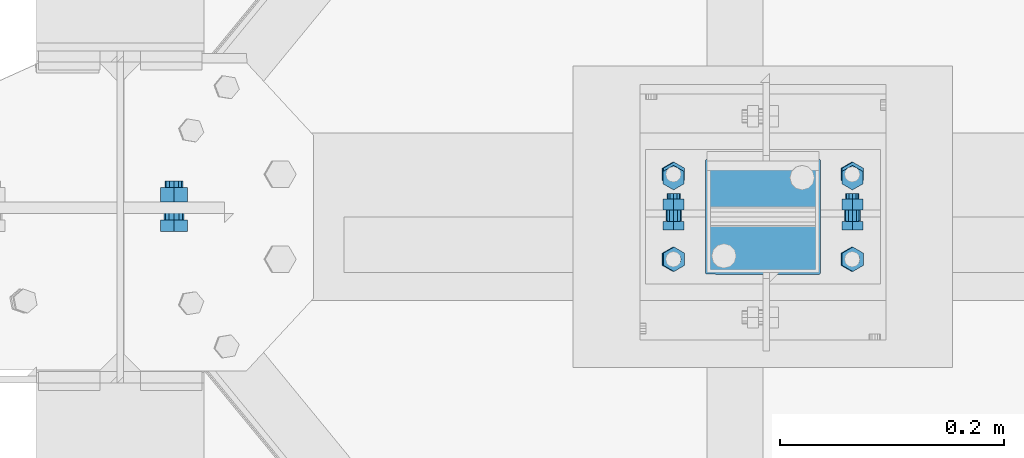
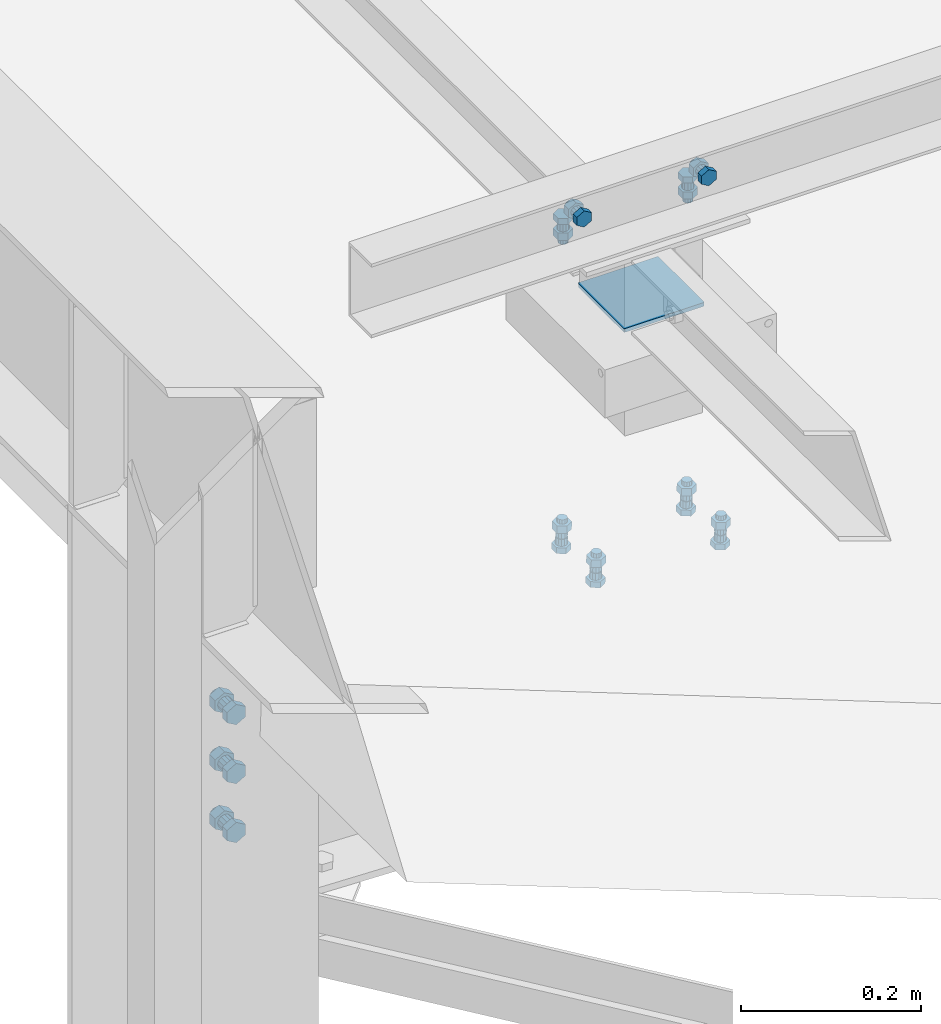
# One storey, part 305 of 3134: 5 mechanical fasteners, 4 elements without a shape of their own.
"""IFC2X3 building model written with IfcOpenShell, lengths in millimetres."""

from ifc_helpers import new_model, si_unit, frame, origin_with_axes, place, context, subcontext, project, spatial, faceted_brep, source, transform, mapped, material, type_object, element, aggregate, save


model = new_model("IFC2X3")

# Units and contexts
model_context = context("Model", 3, precision=1e-05, world=origin_with_axes())
body_context = subcontext(model_context, "Body", "Model", "MODEL_VIEW")
ifc_project = project(units=[si_unit("LENGTHUNIT", "METRE", prefix="MILLI"), si_unit("AREAUNIT", "SQUARE_METRE"), si_unit("VOLUMEUNIT", "CUBIC_METRE"), si_unit("MASSUNIT", "GRAM", prefix="KILO"), si_unit("TIMEUNIT", "SECOND"), si_unit("PLANEANGLEUNIT", "RADIAN"), si_unit("SOLIDANGLEUNIT", "STERADIAN"), si_unit("THERMODYNAMICTEMPERATUREUNIT", "DEGREE_CELSIUS"), si_unit("LUMINOUSINTENSITYUNIT", "LUMEN")], contexts=[model_context])

# Site, building, storey
site_placement = place(None, origin_with_axes())
site = spatial("IfcSite", under=ifc_project, at=site_placement, CompositionType="ELEMENT")
building_placement = place(site_placement, origin_with_axes())
building = spatial("IfcBuilding", under=site, at=building_placement, Name="Undefined", CompositionType="ELEMENT")
storey_placement = place(building_placement, origin_with_axes())
storey = spatial("IfcBuildingStorey", under=building, at=storey_placement, Name="Undefined", CompositionType="ELEMENT", Elevation=0.0)

# Assembly, mechanical fastener
assembly_1_placement = place(storey_placement, origin_with_axes())
assembly_1 = element("IfcElementAssembly", 1, at=assembly_1_placement, inside=storey, AssemblyPlace="NOTDEFINED", PredefinedType="RIGID_FRAME")
ifc_material_1 = material(Name="8.8")
mechanical_fastener_type = type_object("IfcMechanicalFastenerType", Name="Bolt assembly")
shared_shape_1 = source(origin_with_axes(), body_context, "Body", "Brep", [
    faceted_brep([(10.9696551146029, -14.0, 0.0), (5.48482755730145, -14.0, 9.5), (-5.48482755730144, -14.0, 9.5), (-10.9696551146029, -14.0, 1.34339530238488e-15), (-5.48482755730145, -14.0, -9.5), (5.48482755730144, -14.0, -9.50000000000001), (5.48482755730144, -6.0, -9.50000000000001), (-5.48482755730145, -6.0, -9.5), (-10.9696551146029, -6.0, 1.34339530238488e-15), (-5.48482755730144, -6.0, 9.5), (5.48482755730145, -6.0, 9.5), (10.9696551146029, -6.0, 0.0), (6.0, -6.0, 0.0), (5.19615242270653, -6.0, 3.00000000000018), (2.99999999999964, -6.0, 5.19615242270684), (-6.21801588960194e-13, -6.0, 6.0), (-3.00000000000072, -6.0, 5.19615242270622), (-5.19615242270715, -6.0, 2.9999999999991), (-6.0, -6.0, -1.24360317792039e-12), (-5.19615242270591, -6.0, -3.00000000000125), (-2.99999999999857, -6.0, -5.19615242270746), (1.85874342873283e-12, -6.0, -6.0), (3.00000000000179, -6.0, -5.1961524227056), (5.19615242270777, -6.0, -2.99999999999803), (5.19615242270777, 24.0, -2.99999999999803), (3.00000000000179, 24.0, -5.1961524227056), (1.85874342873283e-12, 24.0, -6.0), (-2.99999999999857, 24.0, -5.19615242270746), (-5.19615242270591, 24.0, -3.00000000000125), (-6.0, 24.0, -1.24360317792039e-12), (-5.19615242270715, 24.0, 2.9999999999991), (-3.00000000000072, 24.0, 5.19615242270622), (-6.21801588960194e-13, 24.0, 6.0), (2.99999999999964, 24.0, 5.19615242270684), (5.19615242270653, 24.0, 3.00000000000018), (6.0, 24.0, 0.0), (10.9696551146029, 6.00000000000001, 0.0), (5.48482755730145, 6.00000000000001, 9.5), (-5.48482755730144, 6.00000000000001, 9.5), (-10.9696551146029, 6.00000000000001, 1.34339530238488e-15), (-5.48482755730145, 6.00000000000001, -9.5), (5.48482755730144, 6.00000000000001, -9.50000000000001), (5.48482755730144, 16.0, -9.50000000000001), (-5.48482755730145, 16.0, -9.5), (-10.9696551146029, 16.0, 1.34339530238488e-15), (-5.48482755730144, 16.0, 9.5), (5.48482755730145, 16.0, 9.5), (10.9696551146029, 16.0, 0.0)], [[[0, 1, 2, 3, 4, 5]], [[6, 7, 8, 9, 10, 11]], [[0, 11, 10, 1]], [[1, 10, 9, 2]], [[2, 9, 8, 3]], [[3, 8, 7, 4]], [[4, 7, 6, 5]], [[5, 6, 11, 0]], [[12, 13, 14, 15, 16, 17, 18, 19, 20, 21, 22, 23]], [[24, 25, 26, 27, 28, 29, 30, 31, 32, 33, 34, 35]], [[12, 35, 34, 13]], [[13, 34, 33, 14]], [[14, 33, 32, 15]], [[15, 32, 31, 16]], [[16, 31, 30, 17]], [[17, 30, 29, 18]], [[18, 29, 28, 19]], [[19, 28, 27, 20]], [[20, 27, 26, 21]], [[21, 26, 25, 22]], [[22, 25, 24, 23]], [[23, 24, 35, 12]], [[36, 37, 38, 39, 40, 41]], [[42, 43, 44, 45, 46, 47]], [[36, 47, 46, 37]], [[37, 46, 45, 38]], [[38, 45, 44, 39]], [[39, 44, 43, 40]], [[40, 43, 42, 41]], [[41, 42, 47, 36]]]),
    faceted_brep([(7.0, -0.1, 0.0), (6.06217782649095, -0.1, 3.50000000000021), (3.49999999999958, -0.1, 6.06217782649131), (-7.25435187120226e-13, -0.1, 7.0), (-3.50000000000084, -0.1, 6.06217782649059), (-6.06217782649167, -0.1, 3.49999999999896), (-7.0, -0.1, -1.45087037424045e-12), (-6.06217782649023, -0.1, -3.50000000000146), (-3.49999999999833, -0.1, -6.06217782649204), (2.1685340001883e-12, -0.1, -7.0), (3.50000000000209, -0.1, -6.06217782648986), (6.0621778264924, -0.1, -3.4999999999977), (6.0621778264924, 6.00000000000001, -3.4999999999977), (3.50000000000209, 6.00000000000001, -6.06217782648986), (2.1685340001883e-12, 6.00000000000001, -7.0), (-3.49999999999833, 6.00000000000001, -6.06217782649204), (-6.06217782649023, 6.00000000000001, -3.50000000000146), (-7.0, 6.00000000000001, -1.45087037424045e-12), (-6.06217782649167, 6.00000000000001, 3.49999999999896), (-3.50000000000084, 6.00000000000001, 6.06217782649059), (-7.25435187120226e-13, 6.00000000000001, 7.0), (3.49999999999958, 6.00000000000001, 6.06217782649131), (6.06217782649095, 6.00000000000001, 3.50000000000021), (7.0, 6.00000000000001, 0.0), (7.0, -5.9, 0.0), (6.06217782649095, -5.9, 3.50000000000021), (3.49999999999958, -5.9, 6.06217782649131), (-7.25435187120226e-13, -5.9, 7.0), (-3.50000000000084, -5.9, 6.06217782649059), (-6.06217782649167, -5.9, 3.49999999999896), (-7.0, -5.9, -1.45087037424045e-12), (-6.06217782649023, -5.9, -3.50000000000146), (-3.49999999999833, -5.9, -6.06217782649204), (2.1685340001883e-12, -5.9, -7.0), (3.50000000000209, -5.9, -6.06217782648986), (6.0621778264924, -5.9, -3.4999999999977), (6.0621778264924, 0.0999999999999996, -3.4999999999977), (3.50000000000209, 0.0999999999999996, -6.06217782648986), (2.1685340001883e-12, 0.0999999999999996, -7.0), (-3.49999999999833, 0.0999999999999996, -6.06217782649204), (-6.06217782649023, 0.0999999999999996, -3.50000000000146), (-7.0, 0.0999999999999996, -1.45087037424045e-12), (-6.06217782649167, 0.0999999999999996, 3.49999999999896), (-3.50000000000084, 0.0999999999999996, 6.06217782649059), (-7.25435187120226e-13, 0.0999999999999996, 7.0), (3.49999999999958, 0.0999999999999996, 6.06217782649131), (6.06217782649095, 0.0999999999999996, 3.50000000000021), (7.0, 0.0999999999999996, 0.0)], [[[0, 1, 2, 3, 4, 5, 6, 7, 8, 9, 10, 11]], [[12, 13, 14, 15, 16, 17, 18, 19, 20, 21, 22, 23]], [[0, 23, 22, 1]], [[1, 22, 21, 2]], [[2, 21, 20, 3]], [[3, 20, 19, 4]], [[4, 19, 18, 5]], [[5, 18, 17, 6]], [[6, 17, 16, 7]], [[7, 16, 15, 8]], [[8, 15, 14, 9]], [[9, 14, 13, 10]], [[10, 13, 12, 11]], [[11, 12, 23, 0]], [[24, 25, 26, 27, 28, 29, 30, 31, 32, 33, 34, 35]], [[36, 37, 38, 39, 40, 41, 42, 43, 44, 45, 46, 47]], [[24, 47, 46, 25]], [[25, 46, 45, 26]], [[26, 45, 44, 27]], [[27, 44, 43, 28]], [[28, 43, 42, 29]], [[29, 42, 41, 30]], [[30, 41, 40, 31]], [[31, 40, 39, 32]], [[32, 39, 38, 33]], [[33, 38, 37, 34]], [[34, 37, 36, 35]], [[35, 36, 47, 24]]]),
])
mechanical_fastener_1_placement = place(assembly_1_placement, frame((68125.0, 5135.0, 5850.0), z_axis=(1.0, 0.0, 0.0), x_axis=(0.0, -1.0, 0.0)))
mechanical_fastener_1 = element("IfcMechanicalFastener", 2, at=mechanical_fastener_1_placement, type_object=mechanical_fastener_type, material=ifc_material_1, Name="Bolt assembly", NominalDiameter=12.0, NominalLength=30.0, context=body_context, shape_type="MappedRepresentation", body=[
    mapped(shared_shape_1, transform((0.0, -5.32963895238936e-10, -79.9999999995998))),
    mapped(shared_shape_1, transform((0.0, 5.3114490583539e-10, 79.9999999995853))),
])

assembly_2_placement = place(storey_placement, origin_with_axes())
assembly_2 = element("IfcElementAssembly", 3, at=assembly_2_placement, inside=storey, AssemblyPlace="NOTDEFINED", PredefinedType="RIGID_FRAME")
ifc_material_2 = material(Name="6.8")
shared_shape_2 = source(origin_with_axes(), body_context, "Body", "Brep", [
    faceted_brep([(51.5, 1.36424205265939e-12, 50.0), (51.3858192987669, 1.36424205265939e-12, 50.5740251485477), (51.0606601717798, 1.36424205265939e-12, 51.0606601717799), (50.5740251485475, 1.36424205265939e-12, 51.385819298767), (-50.0000000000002, 1.36424205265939e-12, 51.5), (-50.7500000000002, 1.36424205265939e-12, 51.2990381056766), (-51.2990381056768, 1.36424205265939e-12, 50.7499999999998), (-51.5, 1.36424205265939e-12, 49.9999999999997), (-51.5, 1.36424205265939e-12, -50.0000000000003), (-51.2990381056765, 1.36424205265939e-12, -50.7500000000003), (-50.7499999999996, 1.36424205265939e-12, -51.2990381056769), (-49.9999999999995, 1.36424205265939e-12, -51.5), (50.0000000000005, 1.36424205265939e-12, -51.5), (50.7500000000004, 1.36424205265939e-12, -51.2990381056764), (51.2990381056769, 1.36424205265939e-12, -50.7499999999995), (51.5, 1.36424205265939e-12, -49.9999999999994), (51.5, 5.10000000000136, -49.9999999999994), (51.2990381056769, 5.10000000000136, -50.7499999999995), (50.7500000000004, 5.10000000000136, -51.2990381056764), (50.0000000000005, 5.10000000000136, -51.5), (-49.9999999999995, 5.10000000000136, -51.5), (-50.7499999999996, 5.10000000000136, -51.2990381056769), (-51.2990381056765, 5.10000000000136, -50.7500000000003), (-51.5, 5.10000000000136, -50.0000000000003), (-51.5, 5.10000000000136, 49.9999999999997), (-51.2990381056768, 5.10000000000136, 50.7499999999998), (-50.7500000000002, 5.10000000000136, 51.2990381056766), (-50.0000000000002, 5.10000000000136, 51.5), (50.5740251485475, 5.10000000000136, 51.385819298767), (51.0606601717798, 5.10000000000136, 51.0606601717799), (51.3858192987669, 5.10000000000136, 50.5740251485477), (51.5, 5.10000000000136, 50.0)], [[[0, 1, 2, 3, 4, 5, 6, 7, 8, 9, 10, 11, 12, 13, 14, 15]], [[16, 17, 18, 19, 20, 21, 22, 23, 24, 25, 26, 27, 28, 29, 30, 31]], [[0, 31, 30, 1]], [[1, 30, 29, 2]], [[2, 29, 28, 3]], [[3, 28, 27, 4]], [[4, 27, 26, 5]], [[5, 26, 25, 6]], [[6, 25, 24, 7]], [[7, 24, 23, 8]], [[8, 23, 22, 9]], [[9, 22, 21, 10]], [[10, 21, 20, 11]], [[11, 20, 19, 12]], [[12, 19, 18, 13]], [[13, 18, 17, 14]], [[14, 17, 16, 15]], [[15, 16, 31, 0]]]),
])
mechanical_fastener_2_placement = place(assembly_2_placement, frame((68125.0, 5100.0, 5750.0), z_axis=(0.0, -1.0, 0.0), x_axis=(-1.0, 0.0, 0.0)))
mechanical_fastener_2 = element("IfcMechanicalFastener", 4, at=mechanical_fastener_2_placement, type_object=mechanical_fastener_type, material=ifc_material_2, Name="Bolt assembly", NominalDiameter=10.0, NominalLength=5.0, context=body_context, shape_type="MappedRepresentation", body=[
    mapped(shared_shape_2, transform((0.0, 0.0, 0.0))),
])
aggregate(assembly_2, [mechanical_fastener_2])

# Mechanical fastener
shared_shape_3 = source(origin_with_axes(), body_context, "Body", "Brep", [
    faceted_brep([(10.9696551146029, -12.0, 0.0), (5.48482755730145, -12.0, 9.5), (-5.48482755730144, -12.0, 9.5), (-10.9696551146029, -12.0, 1.34339530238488e-15), (-5.48482755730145, -12.0, -9.5), (5.48482755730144, -12.0, -9.50000000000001), (5.48482755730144, -4.0, -9.50000000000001), (-5.48482755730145, -4.0, -9.5), (-10.9696551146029, -4.0, 1.34339530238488e-15), (-5.48482755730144, -4.0, 9.5), (5.48482755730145, -4.0, 9.5), (10.9696551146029, -4.0, 0.0), (6.0, -4.0, 0.0), (5.19615242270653, -4.0, 3.00000000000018), (2.99999999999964, -4.0, 5.19615242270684), (-6.21801588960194e-13, -4.0, 6.0), (-3.00000000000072, -4.0, 5.19615242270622), (-5.19615242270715, -4.0, 2.9999999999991), (-6.0, -4.0, -1.24360317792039e-12), (-5.19615242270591, -4.0, -3.00000000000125), (-2.99999999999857, -4.0, -5.19615242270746), (1.85874342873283e-12, -4.0, -6.0), (3.00000000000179, -4.0, -5.1961524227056), (5.19615242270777, -4.0, -2.99999999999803), (5.19615242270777, 21.0, -2.99999999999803), (3.00000000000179, 21.0, -5.1961524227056), (1.85874342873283e-12, 21.0, -6.0), (-2.99999999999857, 21.0, -5.19615242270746), (-5.19615242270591, 21.0, -3.00000000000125), (-6.0, 21.0, -1.24360317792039e-12), (-5.19615242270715, 21.0, 2.9999999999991), (-3.00000000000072, 21.0, 5.19615242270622), (-6.21801588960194e-13, 21.0, 6.0), (2.99999999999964, 21.0, 5.19615242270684), (5.19615242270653, 21.0, 3.00000000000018), (6.0, 21.0, 0.0), (10.9696551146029, 6.00000000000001, 0.0), (5.48482755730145, 6.00000000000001, 9.5), (-5.48482755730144, 6.00000000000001, 9.5), (-10.9696551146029, 6.00000000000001, 1.34339530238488e-15), (-5.48482755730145, 6.00000000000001, -9.5), (5.48482755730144, 6.00000000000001, -9.50000000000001), (5.48482755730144, 16.0, -9.50000000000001), (-5.48482755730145, 16.0, -9.5), (-10.9696551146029, 16.0, 1.34339530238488e-15), (-5.48482755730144, 16.0, 9.5), (5.48482755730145, 16.0, 9.5), (10.9696551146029, 16.0, 0.0)], [[[0, 1, 2, 3, 4, 5]], [[6, 7, 8, 9, 10, 11]], [[0, 11, 10, 1]], [[1, 10, 9, 2]], [[2, 9, 8, 3]], [[3, 8, 7, 4]], [[4, 7, 6, 5]], [[5, 6, 11, 0]], [[12, 13, 14, 15, 16, 17, 18, 19, 20, 21, 22, 23]], [[24, 25, 26, 27, 28, 29, 30, 31, 32, 33, 34, 35]], [[12, 35, 34, 13]], [[13, 34, 33, 14]], [[14, 33, 32, 15]], [[15, 32, 31, 16]], [[16, 31, 30, 17]], [[17, 30, 29, 18]], [[18, 29, 28, 19]], [[19, 28, 27, 20]], [[20, 27, 26, 21]], [[21, 26, 25, 22]], [[22, 25, 24, 23]], [[23, 24, 35, 12]], [[36, 37, 38, 39, 40, 41]], [[42, 43, 44, 45, 46, 47]], [[36, 47, 46, 37]], [[37, 46, 45, 38]], [[38, 45, 44, 39]], [[39, 44, 43, 40]], [[40, 43, 42, 41]], [[41, 42, 47, 36]]]),
    faceted_brep([(7.0, -3.9, 0.0), (6.06217782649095, -3.9, 3.50000000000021), (3.49999999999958, -3.9, 6.06217782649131), (-7.25435187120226e-13, -3.9, 7.0), (-3.50000000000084, -3.9, 6.06217782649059), (-6.06217782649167, -3.9, 3.49999999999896), (-7.0, -3.9, -1.45087037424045e-12), (-6.06217782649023, -3.9, -3.50000000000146), (-3.49999999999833, -3.9, -6.06217782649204), (2.1685340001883e-12, -3.9, -7.0), (3.50000000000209, -3.9, -6.06217782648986), (6.0621778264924, -3.9, -3.4999999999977), (6.0621778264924, 0.0999999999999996, -3.4999999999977), (3.50000000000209, 0.0999999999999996, -6.06217782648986), (2.1685340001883e-12, 0.0999999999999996, -7.0), (-3.49999999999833, 0.0999999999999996, -6.06217782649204), (-6.06217782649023, 0.0999999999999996, -3.50000000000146), (-7.0, 0.0999999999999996, -1.45087037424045e-12), (-6.06217782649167, 0.0999999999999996, 3.49999999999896), (-3.50000000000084, 0.0999999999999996, 6.06217782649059), (-7.25435187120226e-13, 0.0999999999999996, 7.0), (3.49999999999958, 0.0999999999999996, 6.06217782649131), (6.06217782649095, 0.0999999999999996, 3.50000000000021), (7.0, 0.0999999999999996, 0.0), (7.0, -0.1, 0.0), (6.06217782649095, -0.1, 3.50000000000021), (3.49999999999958, -0.1, 6.06217782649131), (-7.25435187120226e-13, -0.1, 7.0), (-3.50000000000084, -0.1, 6.06217782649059), (-6.06217782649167, -0.1, 3.49999999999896), (-7.0, -0.1, -1.45087037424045e-12), (-6.06217782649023, -0.1, -3.50000000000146), (-3.49999999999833, -0.1, -6.06217782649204), (2.1685340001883e-12, -0.1, -7.0), (3.50000000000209, -0.1, -6.06217782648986), (6.0621778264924, -0.1, -3.4999999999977), (6.0621778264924, 6.00000000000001, -3.4999999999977), (3.50000000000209, 6.00000000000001, -6.06217782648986), (2.1685340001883e-12, 6.00000000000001, -7.0), (-3.49999999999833, 6.00000000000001, -6.06217782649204), (-6.06217782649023, 6.00000000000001, -3.50000000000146), (-7.0, 6.00000000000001, -1.45087037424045e-12), (-6.06217782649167, 6.00000000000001, 3.49999999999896), (-3.50000000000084, 6.00000000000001, 6.06217782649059), (-7.25435187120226e-13, 6.00000000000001, 7.0), (3.49999999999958, 6.00000000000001, 6.06217782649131), (6.06217782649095, 6.00000000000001, 3.50000000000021), (7.0, 6.00000000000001, 0.0)], [[[0, 1, 2, 3, 4, 5, 6, 7, 8, 9, 10, 11]], [[12, 13, 14, 15, 16, 17, 18, 19, 20, 21, 22, 23]], [[0, 23, 22, 1]], [[1, 22, 21, 2]], [[2, 21, 20, 3]], [[3, 20, 19, 4]], [[4, 19, 18, 5]], [[5, 18, 17, 6]], [[6, 17, 16, 7]], [[7, 16, 15, 8]], [[8, 15, 14, 9]], [[9, 14, 13, 10]], [[10, 13, 12, 11]], [[11, 12, 23, 0]], [[24, 25, 26, 27, 28, 29, 30, 31, 32, 33, 34, 35]], [[36, 37, 38, 39, 40, 41, 42, 43, 44, 45, 46, 47]], [[24, 47, 46, 25]], [[25, 46, 45, 26]], [[26, 45, 44, 27]], [[27, 44, 43, 28]], [[28, 43, 42, 29]], [[29, 42, 41, 30]], [[30, 41, 40, 31]], [[31, 40, 39, 32]], [[32, 39, 38, 33]], [[33, 38, 37, 34]], [[34, 37, 36, 35]], [[35, 36, 47, 24]]]),
])
mechanical_fastener_3_placement = place(assembly_1_placement, frame((68125.0, 5100.0, 5885.0), z_axis=(1.0, 0.0, 0.0), x_axis=(0.0, 0.0, -1.0)))
mechanical_fastener_3 = element("IfcMechanicalFastener", 5, at=mechanical_fastener_3_placement, type_object=mechanical_fastener_type, material=ifc_material_1, Name="Bolt assembly", NominalDiameter=12.0, NominalLength=25.0, context=body_context, shape_type="MappedRepresentation", body=[
    mapped(shared_shape_3, transform((0.0, -5.32963895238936e-10, -79.9999999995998))),
    mapped(shared_shape_3, transform((0.0, 5.3114490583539e-10, 79.9999999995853))),
])

aggregate(assembly_1, [mechanical_fastener_3, mechanical_fastener_1])

# Assembly, mechanical fastener
assembly_3_placement = place(storey_placement, origin_with_axes())
assembly_3 = element("IfcElementAssembly", 6, at=assembly_3_placement, inside=storey, Name="300", AssemblyPlace="NOTDEFINED", PredefinedType="RIGID_FRAME")
shared_shape_4 = source(origin_with_axes(), body_context, "Body", "Brep", [
    faceted_brep([(10.9696551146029, -10.2005960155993, 0.0), (5.48482755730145, -10.2005960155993, 9.5), (-5.48482755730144, -10.2005960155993, 9.5), (-10.9696551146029, -10.2005960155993, 1.34339530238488e-15), (-5.48482755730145, -10.2005960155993, -9.5), (5.48482755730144, -10.2005960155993, -9.50000000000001), (5.48482755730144, -2.20059601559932, -9.50000000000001), (-5.48482755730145, -2.20059601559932, -9.5), (-10.9696551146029, -2.20059601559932, 1.34339530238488e-15), (-5.48482755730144, -2.20059601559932, 9.5), (5.48482755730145, -2.20059601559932, 9.5), (10.9696551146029, -2.20059601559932, 0.0), (6.0, -2.20059601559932, 0.0), (5.19615242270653, -2.20059601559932, 3.00000000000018), (2.99999999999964, -2.20059601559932, 5.19615242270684), (-6.21801588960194e-13, -2.20059601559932, 6.0), (-3.00000000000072, -2.20059601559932, 5.19615242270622), (-5.19615242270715, -2.20059601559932, 2.9999999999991), (-6.0, -2.20059601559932, -1.24360317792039e-12), (-5.19615242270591, -2.20059601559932, -3.00000000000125), (-2.99999999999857, -2.20059601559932, -5.19615242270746), (1.85874342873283e-12, -2.20059601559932, -6.0), (3.00000000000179, -2.20059601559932, -5.1961524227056), (5.19615242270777, -2.20059601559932, -2.99999999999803), (5.19615242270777, 32.7994039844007, -2.99999999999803), (3.00000000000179, 32.7994039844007, -5.1961524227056), (1.85874342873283e-12, 32.7994039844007, -6.0), (-2.99999999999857, 32.7994039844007, -5.19615242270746), (-5.19615242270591, 32.7994039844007, -3.00000000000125), (-6.0, 32.7994039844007, -1.24360317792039e-12), (-5.19615242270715, 32.7994039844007, 2.9999999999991), (-3.00000000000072, 32.7994039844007, 5.19615242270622), (-6.21801588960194e-13, 32.7994039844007, 6.0), (2.99999999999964, 32.7994039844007, 5.19615242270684), (5.19615242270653, 32.7994039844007, 3.00000000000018), (6.0, 32.7994039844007, 0.0), (10.9696551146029, 17.0008987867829, 0.0), (5.48482755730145, 17.0008987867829, 9.5), (-5.48482755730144, 17.0008987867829, 9.5), (-10.9696551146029, 17.0008987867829, 1.34339530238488e-15), (-5.48482755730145, 17.0008987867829, -9.5), (5.48482755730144, 17.0008987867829, -9.50000000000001), (5.48482755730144, 27.0008987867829, -9.50000000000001), (-5.48482755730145, 27.0008987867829, -9.5), (-10.9696551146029, 27.0008987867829, 1.34339530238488e-15), (-5.48482755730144, 27.0008987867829, 9.5), (5.48482755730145, 27.0008987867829, 9.5), (10.9696551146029, 27.0008987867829, 0.0)], [[[0, 1, 2, 3, 4, 5]], [[6, 7, 8, 9, 10, 11]], [[0, 11, 10, 1]], [[1, 10, 9, 2]], [[2, 9, 8, 3]], [[3, 8, 7, 4]], [[4, 7, 6, 5]], [[5, 6, 11, 0]], [[12, 13, 14, 15, 16, 17, 18, 19, 20, 21, 22, 23]], [[24, 25, 26, 27, 28, 29, 30, 31, 32, 33, 34, 35]], [[12, 35, 34, 13]], [[13, 34, 33, 14]], [[14, 33, 32, 15]], [[15, 32, 31, 16]], [[16, 31, 30, 17]], [[17, 30, 29, 18]], [[18, 29, 28, 19]], [[19, 28, 27, 20]], [[20, 27, 26, 21]], [[21, 26, 25, 22]], [[22, 25, 24, 23]], [[23, 24, 35, 12]], [[36, 37, 38, 39, 40, 41]], [[42, 43, 44, 45, 46, 47]], [[36, 47, 46, 37]], [[37, 46, 45, 38]], [[38, 45, 44, 39]], [[39, 44, 43, 40]], [[40, 43, 42, 41]], [[41, 42, 47, 36]]]),
    faceted_brep([(7.0, 8.90089878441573, 0.0), (6.06217782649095, 8.90089878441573, 3.50000000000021), (3.49999999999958, 8.90089878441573, 6.06217782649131), (-7.25435187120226e-13, 8.90089878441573, 7.0), (-3.50000000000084, 8.90089878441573, 6.06217782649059), (-6.06217782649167, 8.90089878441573, 3.49999999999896), (-7.0, 8.90089878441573, -1.45087037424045e-12), (-6.06217782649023, 8.90089878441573, -3.50000000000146), (-3.49999999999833, 8.90089878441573, -6.06217782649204), (2.1685340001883e-12, 8.90089878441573, -7.0), (3.50000000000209, 8.90089878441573, -6.06217782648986), (6.0621778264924, 8.90089878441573, -3.4999999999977), (6.0621778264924, 17.0008987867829, -3.4999999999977), (3.50000000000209, 17.0008987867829, -6.06217782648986), (2.1685340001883e-12, 17.0008987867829, -7.0), (-3.49999999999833, 17.0008987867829, -6.06217782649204), (-6.06217782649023, 17.0008987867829, -3.50000000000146), (-7.0, 17.0008987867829, -1.45087037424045e-12), (-6.06217782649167, 17.0008987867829, 3.49999999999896), (-3.50000000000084, 17.0008987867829, 6.06217782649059), (-7.25435187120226e-13, 17.0008987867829, 7.0), (3.49999999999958, 17.0008987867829, 6.06217782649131), (6.06217782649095, 17.0008987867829, 3.50000000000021), (7.0, 17.0008987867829, 0.0), (7.0, -2.10059601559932, 0.0), (6.06217782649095, -2.10059601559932, 3.50000000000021), (3.49999999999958, -2.10059601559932, 6.06217782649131), (-7.25435187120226e-13, -2.10059601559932, 7.0), (-3.50000000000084, -2.10059601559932, 6.06217782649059), (-6.06217782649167, -2.10059601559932, 3.49999999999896), (-7.0, -2.10059601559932, -1.45087037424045e-12), (-6.06217782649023, -2.10059601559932, -3.50000000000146), (-3.49999999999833, -2.10059601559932, -6.06217782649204), (2.1685340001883e-12, -2.10059601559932, -7.0), (3.50000000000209, -2.10059601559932, -6.06217782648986), (6.0621778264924, -2.10059601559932, -3.4999999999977), (6.0621778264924, 7.09940379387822, -3.4999999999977), (3.50000000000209, 7.09940379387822, -6.06217782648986), (2.1685340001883e-12, 7.09940379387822, -7.0), (-3.49999999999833, 7.09940379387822, -6.06217782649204), (-6.06217782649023, 7.09940379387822, -3.50000000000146), (-7.0, 7.09940379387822, -1.45087037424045e-12), (-6.06217782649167, 7.09940379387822, 3.49999999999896), (-3.50000000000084, 7.09940379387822, 6.06217782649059), (-7.25435187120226e-13, 7.09940379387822, 7.0), (3.49999999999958, 7.09940379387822, 6.06217782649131), (6.06217782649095, 7.09940379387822, 3.50000000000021), (7.0, 7.09940379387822, 0.0)], [[[0, 1, 2, 3, 4, 5, 6, 7, 8, 9, 10, 11]], [[12, 13, 14, 15, 16, 17, 18, 19, 20, 21, 22, 23]], [[0, 23, 22, 1]], [[1, 22, 21, 2]], [[2, 21, 20, 3]], [[3, 20, 19, 4]], [[4, 19, 18, 5]], [[5, 18, 17, 6]], [[6, 17, 16, 7]], [[7, 16, 15, 8]], [[8, 15, 14, 9]], [[9, 14, 13, 10]], [[10, 13, 12, 11]], [[11, 12, 23, 0]], [[24, 25, 26, 27, 28, 29, 30, 31, 32, 33, 34, 35]], [[36, 37, 38, 39, 40, 41, 42, 43, 44, 45, 46, 47]], [[24, 47, 46, 25]], [[25, 46, 45, 26]], [[26, 45, 44, 27]], [[27, 44, 43, 28]], [[28, 43, 42, 29]], [[29, 42, 41, 30]], [[30, 41, 40, 31]], [[31, 40, 39, 32]], [[32, 39, 38, 33]], [[33, 38, 37, 34]], [[34, 37, 36, 35]], [[35, 36, 47, 24]]]),
])
mechanical_fastener_4_placement = place(assembly_3_placement, frame((68124.5351187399, 5138.0, 5415.1872055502), z_axis=(-0.99951962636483, 0.0, 0.0309922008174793), x_axis=(0.0, -1.0, 0.0)))
mechanical_fastener_4 = element("IfcMechanicalFastener", 7, at=mechanical_fastener_4_placement, type_object=mechanical_fastener_type, material=ifc_material_1, Name="Bolt assembly", NominalDiameter=12.0, NominalLength=35.0, context=body_context, shape_type="MappedRepresentation", body=[
    mapped(shared_shape_4, transform((0.0, -5.32963895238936e-10, -79.9999999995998))),
    mapped(shared_shape_4, transform((76.0, -5.32963895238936e-10, -79.9999999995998))),
    mapped(shared_shape_4, transform((0.0, 5.3114490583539e-10, 79.9999999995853))),
    mapped(shared_shape_4, transform((76.0, 5.3114490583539e-10, 79.9999999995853))),
])
aggregate(assembly_3, [mechanical_fastener_4])

assembly_4_placement = place(storey_placement, origin_with_axes())
assembly_4 = element("IfcElementAssembly", 8, at=assembly_4_placement, inside=storey, Name="300", AssemblyPlace="NOTDEFINED", PredefinedType="RIGID_FRAME")
shared_shape_5 = source(origin_with_axes(), body_context, "Body", "Brep", [
    faceted_brep([(13.856406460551, -13.0499999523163, 0.0), (6.92820323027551, -13.0499999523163, 12.0), (-6.92820323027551, -13.0499999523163, 12.0), (-13.856406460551, -13.0499999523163, 1.69692038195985e-15), (-6.92820323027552, -13.0499999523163, -12.0), (6.9282032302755, -13.0499999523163, -12.0), (6.9282032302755, -3.04999995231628, -12.0), (-6.92820323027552, -3.04999995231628, -12.0), (-13.856406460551, -3.04999995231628, 1.69692038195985e-15), (-6.92820323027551, -3.04999995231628, 12.0), (6.92820323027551, -3.04999995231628, 12.0), (13.856406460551, -3.04999995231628, 0.0), (8.0, -3.04999995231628, 0.0), (6.92820323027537, -3.04999995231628, 4.00000000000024), (3.99999999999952, -3.04999995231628, 6.92820323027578), (-8.29068785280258e-13, -3.04999995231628, 8.0), (-4.00000000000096, -3.04999995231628, 6.92820323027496), (-6.9282032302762, -3.04999995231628, 3.99999999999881), (-8.0, -3.04999995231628, -1.65813757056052e-12), (-6.92820323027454, -3.04999995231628, -4.00000000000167), (-3.99999999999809, -3.04999995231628, -6.92820323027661), (2.47832457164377e-12, -3.04999995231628, -8.0), (4.00000000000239, -3.04999995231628, -6.92820323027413), (6.92820323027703, -3.04999995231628, -3.99999999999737), (6.92820323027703, 31.9500000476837, -3.99999999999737), (4.00000000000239, 31.9500000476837, -6.92820323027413), (2.47832457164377e-12, 31.9500000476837, -8.0), (-3.99999999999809, 31.9500000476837, -6.92820323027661), (-6.92820323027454, 31.9500000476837, -4.00000000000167), (-8.0, 31.9500000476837, -1.65813757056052e-12), (-6.9282032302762, 31.9500000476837, 3.99999999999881), (-4.00000000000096, 31.9500000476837, 6.92820323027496), (-8.29068785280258e-13, 31.9500000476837, 8.0), (3.99999999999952, 31.9500000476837, 6.92820323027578), (6.92820323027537, 31.9500000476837, 4.00000000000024), (8.0, 31.9500000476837, 0.0), (13.856406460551, 13.0500000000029, 0.0), (6.92820323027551, 13.0500000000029, 12.0), (-6.92820323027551, 13.0500000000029, 12.0), (-13.856406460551, 13.0500000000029, 1.69692038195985e-15), (-6.92820323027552, 13.0500000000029, -12.0), (6.9282032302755, 13.0500000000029, -12.0), (6.9282032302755, 26.0500000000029, -12.0), (-6.92820323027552, 26.0500000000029, -12.0), (-13.856406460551, 26.0500000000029, 1.69692038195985e-15), (-6.92820323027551, 26.0500000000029, 12.0), (6.92820323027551, 26.0500000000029, 12.0), (13.856406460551, 26.0500000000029, 0.0)], [[[0, 1, 2, 3, 4, 5]], [[6, 7, 8, 9, 10, 11]], [[0, 11, 10, 1]], [[1, 10, 9, 2]], [[2, 9, 8, 3]], [[3, 8, 7, 4]], [[4, 7, 6, 5]], [[5, 6, 11, 0]], [[12, 13, 14, 15, 16, 17, 18, 19, 20, 21, 22, 23]], [[24, 25, 26, 27, 28, 29, 30, 31, 32, 33, 34, 35]], [[12, 35, 34, 13]], [[13, 34, 33, 14]], [[14, 33, 32, 15]], [[15, 32, 31, 16]], [[16, 31, 30, 17]], [[17, 30, 29, 18]], [[18, 29, 28, 19]], [[19, 28, 27, 20]], [[20, 27, 26, 21]], [[21, 26, 25, 22]], [[22, 25, 24, 23]], [[23, 24, 35, 12]], [[36, 37, 38, 39, 40, 41]], [[42, 43, 44, 45, 46, 47]], [[36, 47, 46, 37]], [[37, 46, 45, 38]], [[38, 45, 44, 39]], [[39, 44, 43, 40]], [[40, 43, 42, 41]], [[41, 42, 47, 36]]]),
    faceted_brep([(9.0, -2.94999995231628, 0.0), (7.79422863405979, -2.94999995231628, 4.50000000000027), (4.49999999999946, -2.94999995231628, 7.79422863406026), (-9.3270238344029e-13, -2.94999995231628, 9.0), (-4.50000000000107, -2.94999995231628, 7.79422863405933), (-7.79422863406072, -2.94999995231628, 4.49999999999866), (-9.0, -2.94999995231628, -1.86540476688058e-12), (-7.79422863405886, -2.94999995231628, -4.50000000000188), (-4.49999999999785, -2.94999995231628, -7.79422863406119), (2.78811514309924e-12, -2.94999995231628, -9.0), (4.50000000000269, -2.94999995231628, -7.7942286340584), (7.79422863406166, -2.94999995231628, -4.49999999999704), (7.79422863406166, 3.14999995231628, -4.49999999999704), (4.50000000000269, 3.14999995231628, -7.7942286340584), (2.78811514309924e-12, 3.14999995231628, -9.0), (-4.49999999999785, 3.14999995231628, -7.79422863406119), (-7.79422863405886, 3.14999995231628, -4.50000000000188), (-9.0, 3.14999995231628, -1.86540476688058e-12), (-7.79422863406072, 3.14999995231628, 4.49999999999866), (-4.50000000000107, 3.14999995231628, 7.79422863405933), (-9.3270238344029e-13, 3.14999995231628, 9.0), (4.49999999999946, 3.14999995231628, 7.79422863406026), (7.79422863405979, 3.14999995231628, 4.50000000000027), (9.0, 3.14999995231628, 0.0), (9.0, 2.95000000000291, 0.0), (7.79422863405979, 2.95000000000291, 4.50000000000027), (4.49999999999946, 2.95000000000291, 7.79422863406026), (-9.3270238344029e-13, 2.95000000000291, 9.0), (-4.50000000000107, 2.95000000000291, 7.79422863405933), (-7.79422863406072, 2.95000000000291, 4.49999999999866), (-9.0, 2.95000000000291, -1.86540476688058e-12), (-7.79422863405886, 2.95000000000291, -4.50000000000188), (-4.49999999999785, 2.95000000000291, -7.79422863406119), (2.78811514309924e-12, 2.95000000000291, -9.0), (4.50000000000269, 2.95000000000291, -7.7942286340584), (7.79422863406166, 2.95000000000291, -4.49999999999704), (7.79422863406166, 13.0500000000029, -4.49999999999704), (4.50000000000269, 13.0500000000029, -7.7942286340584), (2.78811514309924e-12, 13.0500000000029, -9.0), (-4.49999999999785, 13.0500000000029, -7.79422863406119), (-7.79422863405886, 13.0500000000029, -4.50000000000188), (-9.0, 13.0500000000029, -1.86540476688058e-12), (-7.79422863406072, 13.0500000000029, 4.49999999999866), (-4.50000000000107, 13.0500000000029, 7.79422863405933), (-9.3270238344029e-13, 13.0500000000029, 9.0), (4.49999999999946, 13.0500000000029, 7.79422863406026), (7.79422863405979, 13.0500000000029, 4.50000000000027), (9.0, 13.0500000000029, 0.0)], [[[0, 1, 2, 3, 4, 5, 6, 7, 8, 9, 10, 11]], [[12, 13, 14, 15, 16, 17, 18, 19, 20, 21, 22, 23]], [[0, 23, 22, 1]], [[1, 22, 21, 2]], [[2, 21, 20, 3]], [[3, 20, 19, 4]], [[4, 19, 18, 5]], [[5, 18, 17, 6]], [[6, 17, 16, 7]], [[7, 16, 15, 8]], [[8, 15, 14, 9]], [[9, 14, 13, 10]], [[10, 13, 12, 11]], [[11, 12, 23, 0]], [[24, 25, 26, 27, 28, 29, 30, 31, 32, 33, 34, 35]], [[36, 37, 38, 39, 40, 41, 42, 43, 44, 45, 46, 47]], [[24, 47, 46, 25]], [[25, 46, 45, 26]], [[26, 45, 44, 27]], [[27, 44, 43, 28]], [[28, 43, 42, 29]], [[29, 42, 41, 30]], [[30, 41, 40, 31]], [[31, 40, 39, 32]], [[32, 39, 38, 33]], [[33, 38, 37, 34]], [[34, 37, 36, 35]], [[35, 36, 47, 24]]]),
])
mechanical_fastener_5_placement = place(assembly_4_placement, frame((67598.0481350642, 5100.0, 5369.94123685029), z_axis=(1.0, 0.0, 0.0), x_axis=(0.0, 0.0, -1.0)))
mechanical_fastener_5 = element("IfcMechanicalFastener", 9, at=mechanical_fastener_5_placement, type_object=mechanical_fastener_type, material=ifc_material_1, Name="Bolt assembly", NominalDiameter=16.0, NominalLength=35.0, context=body_context, shape_type="MappedRepresentation", body=[
    mapped(shared_shape_5, transform((0.0, 0.0, 0.0))),
    mapped(shared_shape_5, transform((80.0, 0.0, 0.0))),
    mapped(shared_shape_5, transform((160.0, 0.0, 0.0))),
])
aggregate(assembly_4, [mechanical_fastener_5])

save(model, "model.ifc")
